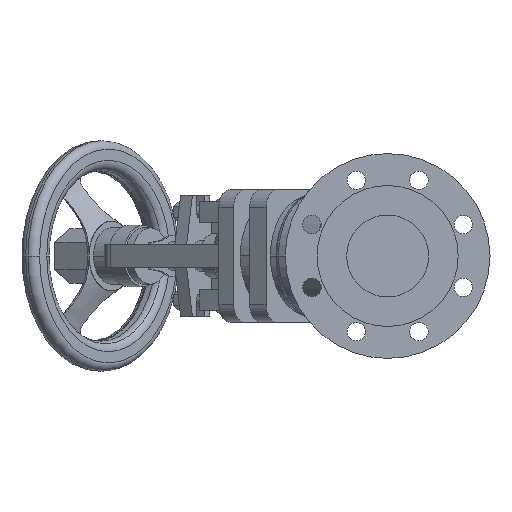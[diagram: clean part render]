
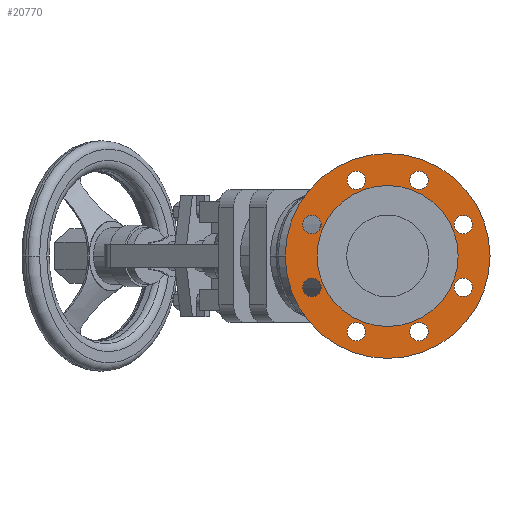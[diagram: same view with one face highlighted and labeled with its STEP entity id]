
A CAD part, left-side view. The second image highlights one B-rep face of the part: STEP entity #20770.
In plain terms, the highlighted planar face has unit normal (-1, 0, 0).
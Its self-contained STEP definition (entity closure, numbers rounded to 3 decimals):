
#4360=CARTESIAN_POINT('',(3.76,-68.875,0.)
);
#4370=VERTEX_POINT('',#4360);
#4400=CARTESIAN_POINT('',(3.76,0.,0.));
#4410=DIRECTION('',(-1.,0.,0.));
#4420=DIRECTION('',(0.,1.,0.));
#4430=AXIS2_PLACEMENT_3D('',#4400,#4410,#4420);
#4440=CIRCLE('',#4430,68.875);
#4450=CARTESIAN_POINT('',(3.76,68.875,0.)
);
#4460=VERTEX_POINT('',#4450);
#4470=EDGE_CURVE('',#4460,#4370,#4440,.T.);
#6550=CARTESIAN_POINT('',(3.76,0.,100.));
#6560=VERTEX_POINT('',#6550);
#6610=CARTESIAN_POINT('',(3.76,0.,0.));
#6620=DIRECTION('',(1.,0.,0.));
#6630=DIRECTION('',(0.,0.,-1.));
#6640=AXIS2_PLACEMENT_3D('',#6610,#6620,#6630);
#6650=CIRCLE('',#6640,100.);
#6660=CARTESIAN_POINT('',(3.76,0.,-100.));
#6670=VERTEX_POINT('',#6660);
#6680=EDGE_CURVE('',#6670,#6560,#6650,.T.);
#7040=CARTESIAN_POINT('',(3.76,30.615,
-82.91));
#7050=VERTEX_POINT('',#7040);
#7100=CARTESIAN_POINT('',(3.76,30.615,
-73.91));
#7110=DIRECTION('',(-1.,0.,0.));
#7120=DIRECTION('',(0.,0.,-1.));
#7130=AXIS2_PLACEMENT_3D('',#7100,#7110,#7120);
#7140=CIRCLE('',#7130,9.);
#7150=CARTESIAN_POINT('',(3.76,30.615,
-64.91));
#7160=VERTEX_POINT('',#7150);
#7170=EDGE_CURVE('',#7160,#7050,#7140,.T.);
#7530=CARTESIAN_POINT('',(3.76,-30.615,
-82.91));
#7540=VERTEX_POINT('',#7530);
#7590=CARTESIAN_POINT('',(3.76,-30.615,
-73.91));
#7600=DIRECTION('',(-1.,0.,0.));
#7610=DIRECTION('',(0.,0.,-1.));
#7620=AXIS2_PLACEMENT_3D('',#7590,#7600,#7610);
#7630=CIRCLE('',#7620,9.);
#7640=CARTESIAN_POINT('',(3.76,-30.615,
-64.91));
#7650=VERTEX_POINT('',#7640);
#7660=EDGE_CURVE('',#7650,#7540,#7630,.T.);
#8020=CARTESIAN_POINT('',(3.76,73.91,
-21.615));
#8030=VERTEX_POINT('',#8020);
#8210=CARTESIAN_POINT('',(3.76,73.91,
-39.615));
#8220=VERTEX_POINT('',#8210);
#8250=CARTESIAN_POINT('',(3.76,73.91,
-30.615));
#8260=DIRECTION('',(-1.,0.,0.));
#8270=DIRECTION('',(0.,0.,-1.));
#8280=AXIS2_PLACEMENT_3D('',#8250,#8260,#8270);
#8290=CIRCLE('',#8280,9.);
#8300=EDGE_CURVE('',#8030,#8220,#8290,.T.);
#8510=CARTESIAN_POINT('',(3.76,-73.91,
-21.615));
#8520=VERTEX_POINT('',#8510);
#8570=CARTESIAN_POINT('',(3.76,-73.91,
-30.615));
#8580=DIRECTION('',(-1.,0.,0.));
#8590=DIRECTION('',(0.,0.,-1.));
#8600=AXIS2_PLACEMENT_3D('',#8570,#8580,#8590);
#8610=CIRCLE('',#8600,9.);
#8620=CARTESIAN_POINT('',(3.76,-73.91,
-39.615));
#8630=VERTEX_POINT('',#8620);
#8640=EDGE_CURVE('',#8630,#8520,#8610,.T.);
#9000=CARTESIAN_POINT('',(3.76,73.91,
39.615));
#9010=VERTEX_POINT('',#9000);
#9060=CARTESIAN_POINT('',(3.76,73.91,
30.615));
#9070=DIRECTION('',(-1.,0.,0.));
#9080=DIRECTION('',(0.,0.,-1.));
#9090=AXIS2_PLACEMENT_3D('',#9060,#9070,#9080);
#9100=CIRCLE('',#9090,9.);
#9110=CARTESIAN_POINT('',(3.76,73.91,
21.615));
#9120=VERTEX_POINT('',#9110);
#9130=EDGE_CURVE('',#9120,#9010,#9100,.T.);
#9490=CARTESIAN_POINT('',(3.76,-73.91,
39.615));
#9500=VERTEX_POINT('',#9490);
#9680=CARTESIAN_POINT('',(3.76,-73.91,
21.615));
#9690=VERTEX_POINT('',#9680);
#9720=CARTESIAN_POINT('',(3.76,-73.91,
30.615));
#9730=DIRECTION('',(-1.,0.,0.));
#9740=DIRECTION('',(0.,0.,-1.));
#9750=AXIS2_PLACEMENT_3D('',#9720,#9730,#9740);
#9760=CIRCLE('',#9750,9.);
#9770=EDGE_CURVE('',#9500,#9690,#9760,.T.);
#9980=CARTESIAN_POINT('',(3.76,30.615,
64.91));
#9990=VERTEX_POINT('',#9980);
#10040=CARTESIAN_POINT('',(3.76,30.615,
73.91));
#10050=DIRECTION('',(-1.,0.,0.));
#10060=DIRECTION('',(0.,0.,-1.));
#10070=AXIS2_PLACEMENT_3D('',#10040,#10050,#10060);
#10080=CIRCLE('',#10070,9.);
#10090=CARTESIAN_POINT('',(3.76,30.615,
82.91));
#10100=VERTEX_POINT('',#10090);
#10110=EDGE_CURVE('',#10100,#9990,#10080,.T.);
#10470=CARTESIAN_POINT('',(3.76,-30.615,
64.91));
#10480=VERTEX_POINT('',#10470);
#10530=CARTESIAN_POINT('',(3.76,-30.615,
73.91));
#10540=DIRECTION('',(-1.,0.,0.));
#10550=DIRECTION('',(0.,0.,-1.));
#10560=AXIS2_PLACEMENT_3D('',#10530,#10540,#10550);
#10570=CIRCLE('',#10560,9.);
#10580=CARTESIAN_POINT('',(3.76,-30.615,
82.91));
#10590=VERTEX_POINT('',#10580);
#10600=EDGE_CURVE('',#10590,#10480,#10570,.T.);
#20220=CARTESIAN_POINT('',(3.76,0.,0.));
#20230=DIRECTION('',(1.,0.,0.));
#20240=DIRECTION('',(0.,0.,-1.));
#20250=AXIS2_PLACEMENT_3D('',#20220,#20230,#20240);
#20260=PLANE('',#20250);
#20270=EDGE_CURVE('',#10480,#10590,#10570,.T.);
#20280=ORIENTED_EDGE('',*,*,#20270,.F.);
#20290=ORIENTED_EDGE('',*,*,#10600,.F.);
#20300=EDGE_LOOP('',(#20290,#20280));
#20310=FACE_BOUND('',#20300,.T.);
#20320=EDGE_CURVE('',#9990,#10100,#10080,.T.);
#20330=ORIENTED_EDGE('',*,*,#20320,.F.);
#20340=ORIENTED_EDGE('',*,*,#10110,.F.);
#20350=EDGE_LOOP('',(#20340,#20330));
#20360=FACE_BOUND('',#20350,.T.);
#20370=EDGE_CURVE('',#9690,#9500,#9760,.T.);
#20380=ORIENTED_EDGE('',*,*,#20370,.F.);
#20390=ORIENTED_EDGE('',*,*,#9770,.F.);
#20400=EDGE_LOOP('',(#20390,#20380));
#20410=FACE_BOUND('',#20400,.T.);
#20420=ORIENTED_EDGE('',*,*,#9130,.F.);
#20430=EDGE_CURVE('',#9010,#9120,#9100,.T.);
#20440=ORIENTED_EDGE('',*,*,#20430,.F.);
#20450=EDGE_LOOP('',(#20440,#20420));
#20460=FACE_BOUND('',#20450,.T.);
#20470=EDGE_CURVE('',#8520,#8630,#8610,.T.);
#20480=ORIENTED_EDGE('',*,*,#20470,.F.);
#20490=ORIENTED_EDGE('',*,*,#8640,.F.);
#20500=EDGE_LOOP('',(#20490,#20480));
#20510=FACE_BOUND('',#20500,.T.);
#20520=EDGE_CURVE('',#8220,#8030,#8290,.T.);
#20530=ORIENTED_EDGE('',*,*,#20520,.F.);
#20540=ORIENTED_EDGE('',*,*,#8300,.F.);
#20550=EDGE_LOOP('',(#20540,#20530));
#20560=FACE_BOUND('',#20550,.T.);
#20570=EDGE_CURVE('',#7540,#7650,#7630,.T.);
#20580=ORIENTED_EDGE('',*,*,#20570,.F.);
#20590=ORIENTED_EDGE('',*,*,#7660,.F.);
#20600=EDGE_LOOP('',(#20590,#20580));
#20610=FACE_BOUND('',#20600,.T.);
#20620=EDGE_CURVE('',#7050,#7160,#7140,.T.);
#20630=ORIENTED_EDGE('',*,*,#20620,.F.);
#20640=ORIENTED_EDGE('',*,*,#7170,.F.);
#20650=EDGE_LOOP('',(#20640,#20630));
#20660=FACE_BOUND('',#20650,.T.);
#20670=ORIENTED_EDGE('',*,*,#6680,.F.);
#20680=EDGE_CURVE('',#6560,#6670,#6650,.T.);
#20690=ORIENTED_EDGE('',*,*,#20680,.F.);
#20700=EDGE_LOOP('',(#20690,#20670));
#20710=FACE_OUTER_BOUND('',#20700,.T.);
#20720=EDGE_CURVE('',#4370,#4460,#4440,.T.);
#20730=ORIENTED_EDGE('',*,*,#20720,.F.);
#20740=ORIENTED_EDGE('',*,*,#4470,.F.);
#20750=EDGE_LOOP('',(#20740,#20730));
#20760=FACE_BOUND('',#20750,.T.);
#20770=ADVANCED_FACE('',(#20310,#20360,#20410,#20460,#20510,#20560,
#20610,#20660,#20710,#20760),#20260,.F.);
